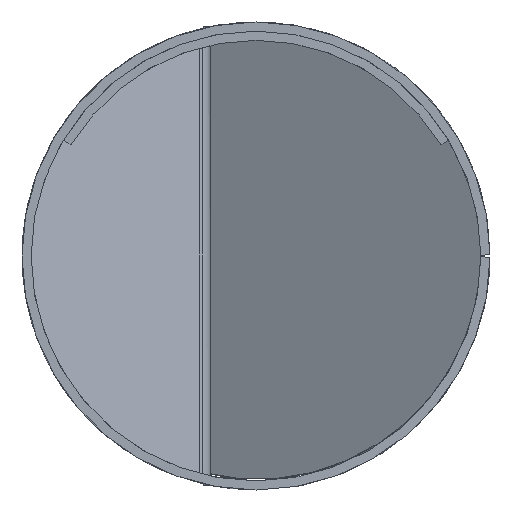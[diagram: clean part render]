
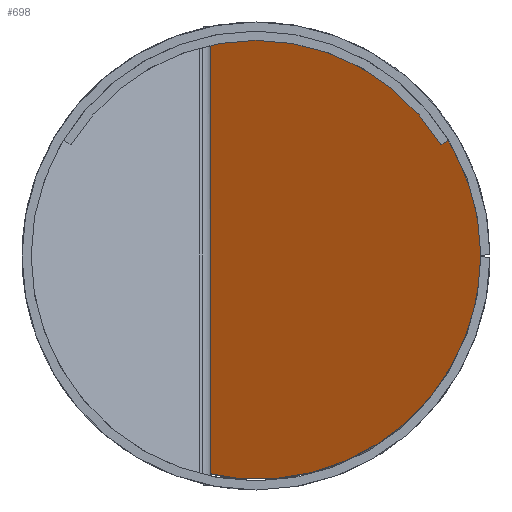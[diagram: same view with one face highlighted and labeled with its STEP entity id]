
A CAD part, front view. The second image highlights one B-rep face of the part: STEP entity #698.
In plain terms, the highlighted planar face has unit normal (-0.5, -0.866, 0).
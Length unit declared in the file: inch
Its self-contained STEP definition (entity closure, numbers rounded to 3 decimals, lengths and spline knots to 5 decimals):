
#239 = DIRECTION ( 'NONE',  ( -0.866, 0.5, 0. ) ) ;
#698 = ADVANCED_FACE ( 'NONE', ( #4494 ), #1683, .F. ) ;
#719 = DIRECTION ( 'NONE',  ( 0.5, 0.866, 0. ) ) ;
#901 = AXIS2_PLACEMENT_3D ( 'NONE', #1642, #719, #239 ) ;
#1016 = CARTESIAN_POINT ( 'NONE',  ( 6.11627, 65.21816, 0. ) ) ;
#1051 = CARTESIAN_POINT ( 'NONE',  ( 6.11627, 65.21816, 12.18 ) ) ;
#1074 = CARTESIAN_POINT ( 'NONE',  ( -6.125, 72.28566, 0. ) ) ;
#1271 = EDGE_LOOP ( 'NONE', ( #2306, #5717 ) ) ;
#1642 = CARTESIAN_POINT ( 'NONE',  ( -0.00437, 68.75191, 0. ) ) ;
#1683 = PLANE ( 'NONE',  #901 ) ;
#2020 = EDGE_CURVE ( 'NONE', #5153, #5361, #4587, .T. ) ;
#2187 =( BOUNDED_CURVE ( )  B_SPLINE_CURVE ( 3, ( #5598, #3666, #2247, #3245 ),
 .UNSPECIFIED., .F., .F. ) 
 B_SPLINE_CURVE_WITH_KNOTS ( ( 4, 4 ),
 ( 0., 0.52845 ),
 .UNSPECIFIED. ) 
 CURVE ( )  GEOMETRIC_REPRESENTATION_ITEM ( )  RATIONAL_B_SPLINE_CURVE ( ( 1., 0.333, 0.333, 1. ) ) 
 REPRESENTATION_ITEM ( '' )  );
#2247 = CARTESIAN_POINT ( 'NONE',  ( -6.125, 72.28566, -12.18 ) ) ;
#2306 = ORIENTED_EDGE ( 'NONE', *, *, #2020, .F. ) ;
#3128 = EDGE_CURVE ( 'NONE', #5361, #5153, #2187, .T. ) ;
#3245 = CARTESIAN_POINT ( 'NONE',  ( -6.125, 72.28566, 0. ) ) ;
#3303 = CARTESIAN_POINT ( 'NONE',  ( -6.125, 72.28566, 12.18 ) ) ;
#3666 = CARTESIAN_POINT ( 'NONE',  ( 6.11627, 65.21816, -12.18 ) ) ;
#4229 = CARTESIAN_POINT ( 'NONE',  ( -6.125, 72.28566, 0. ) ) ;
#4494 = FACE_OUTER_BOUND ( 'NONE', #1271, .T. ) ;
#4587 =( BOUNDED_CURVE ( )  B_SPLINE_CURVE ( 3, ( #1074, #3303, #1051, #1016 ),
 .UNSPECIFIED., .F., .T. ) 
 B_SPLINE_CURVE_WITH_KNOTS ( ( 4, 4 ),
 ( 0., 0.52845 ),
 .UNSPECIFIED. ) 
 CURVE ( )  GEOMETRIC_REPRESENTATION_ITEM ( )  RATIONAL_B_SPLINE_CURVE ( ( 1., 0.333, 0.333, 1. ) ) 
 REPRESENTATION_ITEM ( '' )  );
#4894 = CARTESIAN_POINT ( 'NONE',  ( 6.11627, 65.21816, 0. ) ) ;
#5153 = VERTEX_POINT ( 'NONE', #4229 ) ;
#5361 = VERTEX_POINT ( 'NONE', #4894 ) ;
#5598 = CARTESIAN_POINT ( 'NONE',  ( 6.11627, 65.21816, 0. ) ) ;
#5717 = ORIENTED_EDGE ( 'NONE', *, *, #3128, .F. ) ;
